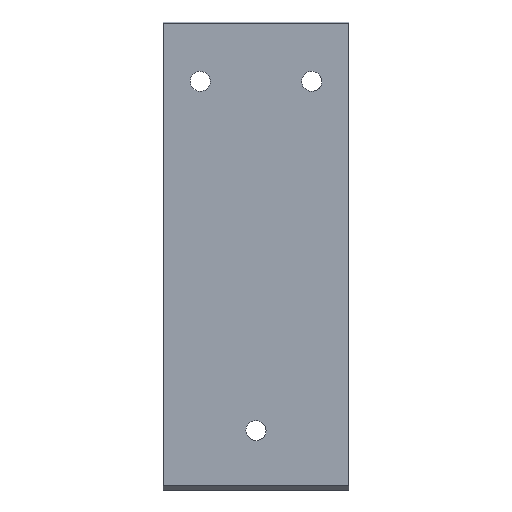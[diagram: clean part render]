
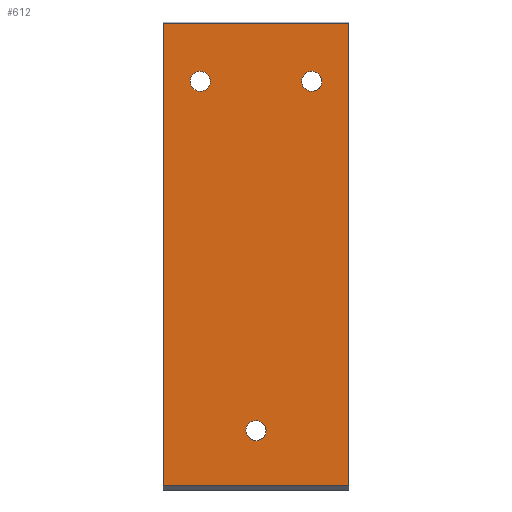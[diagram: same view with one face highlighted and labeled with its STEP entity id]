
A CAD part, left-side view. The second image highlights one B-rep face of the part: STEP entity #612.
In plain terms, the highlighted planar face has unit normal (-1, 0, 0).
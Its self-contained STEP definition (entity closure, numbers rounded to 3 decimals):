
#5 = VERTEX_POINT ( 'NONE', #546 ) ;
#10 = DIRECTION ( 'NONE',  ( 0., 0., 1. ) ) ;
#33 = EDGE_CURVE ( 'NONE', #558, #753, #273, .T. ) ;
#37 = CARTESIAN_POINT ( 'NONE',  ( 0., -43.424, 278.236 ) ) ;
#48 = EDGE_CURVE ( 'NONE', #128, #766, #241, .T. ) ;
#57 = EDGE_CURVE ( 'NONE', #237, #250, #540, .T. ) ;
#76 = CARTESIAN_POINT ( 'NONE',  ( 0., 5.5, 35.988 ) ) ;
#85 = CARTESIAN_POINT ( 'NONE',  ( 0., -6.617, 41.601 ) ) ;
#88 = DIRECTION ( 'NONE',  ( 0., -1., 0. ) ) ;
#94 = EDGE_CURVE ( 'NONE', #5, #736, #774, .T. ) ;
#98 = CARTESIAN_POINT ( 'NONE',  ( 0., -4.702, 35.078 ) ) ;
#110 = EDGE_CURVE ( 'NONE', #5, #237, #814, .T. ) ;
#118 = CARTESIAN_POINT ( 'NONE',  ( 0., -4.012, 34.5 ) ) ;
#123 = DIRECTION ( 'NONE',  ( 0., 1., 0. ) ) ;
#128 = VERTEX_POINT ( 'NONE', #442 ) ;
#130 = CARTESIAN_POINT ( 'NONE',  ( 0., -31.576, 271.764 ) ) ;
#140 = CARTESIAN_POINT ( 'NONE',  ( 0., -37.5, 275. ) ) ;
#152 = CARTESIAN_POINT ( 'NONE',  ( 0., -62.5, 314. ) ) ;
#158 = EDGE_CURVE ( 'NONE', #766, #128, #304, .T. ) ;
#159 = EDGE_CURVE ( 'NONE', #285, #791, #674, .T. ) ;
#165 = ORIENTED_EDGE ( 'NONE', *, *, #94, .F. ) ;
#166 = CARTESIAN_POINT ( 'NONE',  ( 0., 43.424, 271.764 ) ) ;
#175 = B_SPLINE_CURVE_WITH_KNOTS ( 'NONE', 3,
 ( #797, #76, #459, #389, #739, #472, #280, #603, #609, #118, #98, #777, #466, #754, #336, #85, #572, #441 ),
 .UNSPECIFIED., .F., .F.,
 ( 4, 2, 2, 2, 2, 2, 2, 2, 4 ),
 ( 0., 0.125, 0.25, 0.375, 0.5, 0.625, 0.75, 0.875, 1. ),
 .UNSPECIFIED. ) ;
#210 = DIRECTION ( 'NONE',  ( -1., 0., 0. ) ) ;
#237 = VERTEX_POINT ( 'NONE', #152 ) ;
#241 = CIRCLE ( 'NONE', #480, 6.75 ) ;
#247 = EDGE_CURVE ( 'NONE', #791, #285, #659, .T. ) ;
#250 = VERTEX_POINT ( 'NONE', #471 ) ;
#255 = EDGE_LOOP ( 'NONE', ( #521, #663 ) ) ;
#271 = VECTOR ( 'NONE', #123, 1000. ) ;
#273 = CIRCLE ( 'NONE', #468, 6.75 ) ;
#280 = CARTESIAN_POINT ( 'NONE',  ( 0., 0.156, 33.194 ) ) ;
#285 = VERTEX_POINT ( 'NONE', #130 ) ;
#297 = AXIS2_PLACEMENT_3D ( 'NONE', #841, #210, #88 ) ;
#303 = ORIENTED_EDGE ( 'NONE', *, *, #714, .F. ) ;
#304 = CIRCLE ( 'NONE', #297, 6.75 ) ;
#308 = CARTESIAN_POINT ( 'NONE',  ( 0., 62.5, 3. ) ) ;
#316 = AXIS2_PLACEMENT_3D ( 'NONE', #700, #837, #853 ) ;
#336 = CARTESIAN_POINT ( 'NONE',  ( 0., -6.806, 39.844 ) ) ;
#352 = VECTOR ( 'NONE', #463, 1000. ) ;
#357 = DIRECTION ( 'NONE',  ( 0., 1., 0. ) ) ;
#358 = AXIS2_PLACEMENT_3D ( 'NONE', #140, #711, #631 ) ;
#371 = ORIENTED_EDGE ( 'NONE', *, *, #247, .F. ) ;
#380 = DIRECTION ( 'NONE',  ( 0., 0., 1. ) ) ;
#389 = CARTESIAN_POINT ( 'NONE',  ( 0., 3.546, 34.189 ) ) ;
#409 = EDGE_LOOP ( 'NONE', ( #165, #789, #529, #303 ) ) ;
#439 = ORIENTED_EDGE ( 'NONE', *, *, #159, .F. ) ;
#441 = CARTESIAN_POINT ( 'NONE',  ( 0., -5.924, 43.236 ) ) ;
#442 = CARTESIAN_POINT ( 'NONE',  ( 0., 31.576, 278.236 ) ) ;
#457 = VECTOR ( 'NONE', #357, 1000. ) ;
#459 = CARTESIAN_POINT ( 'NONE',  ( 0., 4.922, 35.298 ) ) ;
#463 = DIRECTION ( 'NONE',  ( 0., 0., 1. ) ) ;
#466 = CARTESIAN_POINT ( 'NONE',  ( 0., -6.228, 37.252 ) ) ;
#468 = AXIS2_PLACEMENT_3D ( 'NONE', #818, #805, #768 ) ;
#471 = CARTESIAN_POINT ( 'NONE',  ( 0., 62.5, 314. ) ) ;
#472 = CARTESIAN_POINT ( 'NONE',  ( 0., 1.053, 33.274 ) ) ;
#477 = CARTESIAN_POINT ( 'NONE',  ( 0., -62.5, 158.5 ) ) ;
#480 = AXIS2_PLACEMENT_3D ( 'NONE', #735, #731, #722 ) ;
#503 = DIRECTION ( 'NONE',  ( -1., 0., 0. ) ) ;
#508 = LINE ( 'NONE', #589, #520 ) ;
#520 = VECTOR ( 'NONE', #380, 1000. ) ;
#521 = ORIENTED_EDGE ( 'NONE', *, *, #772, .F. ) ;
#527 = CARTESIAN_POINT ( 'NONE',  ( 0., 5.924, 36.764 ) ) ;
#529 = ORIENTED_EDGE ( 'NONE', *, *, #57, .T. ) ;
#532 = CARTESIAN_POINT ( 'NONE',  ( 0., 0., 3. ) ) ;
#540 = LINE ( 'NONE', #588, #457 ) ;
#546 = CARTESIAN_POINT ( 'NONE',  ( 0., -62.5, 3. ) ) ;
#558 = VERTEX_POINT ( 'NONE', #843 ) ;
#564 = FACE_BOUND ( 'NONE', #832, .T. ) ;
#572 = CARTESIAN_POINT ( 'NONE',  ( 0., -6.347, 42.461 ) ) ;
#583 = FACE_BOUND ( 'NONE', #255, .T. ) ;
#585 = FACE_BOUND ( 'NONE', #810, .T. ) ;
#587 = AXIS2_PLACEMENT_3D ( 'NONE', #532, #503, #10 ) ;
#588 = CARTESIAN_POINT ( 'NONE',  ( 0., 0., 314. ) ) ;
#589 = CARTESIAN_POINT ( 'NONE',  ( 0., 62.5, 158.5 ) ) ;
#603 = CARTESIAN_POINT ( 'NONE',  ( 0., -1.601, 33.383 ) ) ;
#609 = CARTESIAN_POINT ( 'NONE',  ( 0., -2.461, 33.653 ) ) ;
#610 = FACE_OUTER_BOUND ( 'NONE', #409, .T. ) ;
#612 = ADVANCED_FACE ( 'NONE', ( #610, #564, #583, #585 ), #775, .T. ) ;
#629 = ORIENTED_EDGE ( 'NONE', *, *, #158, .F. ) ;
#631 = DIRECTION ( 'NONE',  ( 0., -1., 0. ) ) ;
#659 = CIRCLE ( 'NONE', #316, 6.75 ) ;
#663 = ORIENTED_EDGE ( 'NONE', *, *, #33, .F. ) ;
#674 = CIRCLE ( 'NONE', #358, 6.75 ) ;
#700 = CARTESIAN_POINT ( 'NONE',  ( 0., -37.5, 275. ) ) ;
#711 = DIRECTION ( 'NONE',  ( -1., 0., 0. ) ) ;
#714 = EDGE_CURVE ( 'NONE', #736, #250, #508, .T. ) ;
#722 = DIRECTION ( 'NONE',  ( 0., -1., 0. ) ) ;
#731 = DIRECTION ( 'NONE',  ( -1., 0., 0. ) ) ;
#735 = CARTESIAN_POINT ( 'NONE',  ( 0., 37.5, 275. ) ) ;
#736 = VERTEX_POINT ( 'NONE', #308 ) ;
#739 = CARTESIAN_POINT ( 'NONE',  ( 0., 2.748, 33.772 ) ) ;
#753 = VERTEX_POINT ( 'NONE', #527 ) ;
#754 = CARTESIAN_POINT ( 'NONE',  ( 0., -6.726, 38.947 ) ) ;
#766 = VERTEX_POINT ( 'NONE', #166 ) ;
#768 = DIRECTION ( 'NONE',  ( 0., -1., 0. ) ) ;
#772 = EDGE_CURVE ( 'NONE', #753, #558, #175, .T. ) ;
#774 = LINE ( 'NONE', #778, #271 ) ;
#775 = PLANE ( 'NONE',  #587 ) ;
#777 = CARTESIAN_POINT ( 'NONE',  ( 0., -5.811, 36.454 ) ) ;
#778 = CARTESIAN_POINT ( 'NONE',  ( 0., 0., 3. ) ) ;
#785 = ORIENTED_EDGE ( 'NONE', *, *, #48, .F. ) ;
#789 = ORIENTED_EDGE ( 'NONE', *, *, #110, .T. ) ;
#791 = VERTEX_POINT ( 'NONE', #37 ) ;
#797 = CARTESIAN_POINT ( 'NONE',  ( 0., 5.924, 36.764 ) ) ;
#805 = DIRECTION ( 'NONE',  ( -1., 0., 0. ) ) ;
#810 = EDGE_LOOP ( 'NONE', ( #439, #371 ) ) ;
#814 = LINE ( 'NONE', #477, #352 ) ;
#818 = CARTESIAN_POINT ( 'NONE',  ( 0., 0., 40. ) ) ;
#832 = EDGE_LOOP ( 'NONE', ( #629, #785 ) ) ;
#837 = DIRECTION ( 'NONE',  ( -1., 0., 0. ) ) ;
#841 = CARTESIAN_POINT ( 'NONE',  ( 0., 37.5, 275. ) ) ;
#843 = CARTESIAN_POINT ( 'NONE',  ( 0., -5.924, 43.236 ) ) ;
#853 = DIRECTION ( 'NONE',  ( 0., -1., 0. ) ) ;
